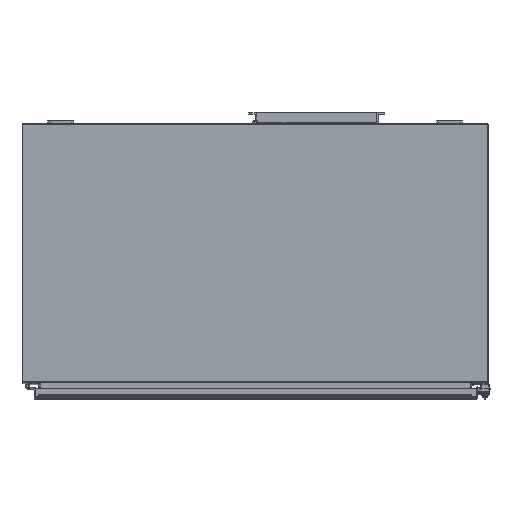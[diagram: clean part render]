
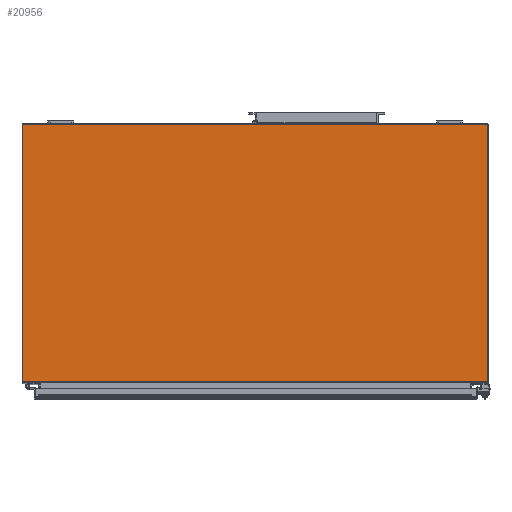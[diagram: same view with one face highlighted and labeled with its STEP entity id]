
A CAD part, top view. The second image highlights one B-rep face of the part: STEP entity #20956.
In plain terms, the highlighted planar face has unit normal (0, 0, 1) as drawn and (0, -1, 0) by its records, which use the part's own axes.
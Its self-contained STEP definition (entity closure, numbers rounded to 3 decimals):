
#2415=LINE('',#36921,#4421);
#2417=LINE('',#36925,#4423);
#2421=LINE('',#36934,#4427);
#2424=LINE('',#36939,#4430);
#4421=VECTOR('',#27189,1000.);
#4423=VECTOR('',#27195,1000.);
#4427=VECTOR('',#27201,1000.);
#4430=VECTOR('',#27208,1000.);
#9868=ORIENTED_EDGE('',*,*,#13590,.T.);
#9869=ORIENTED_EDGE('',*,*,#13581,.T.);
#9870=ORIENTED_EDGE('',*,*,#13587,.T.);
#9871=ORIENTED_EDGE('',*,*,#13583,.T.);
#13581=EDGE_CURVE('',#15775,#15778,#2415,.T.);
#13583=EDGE_CURVE('',#15779,#15780,#2417,.T.);
#13587=EDGE_CURVE('',#15778,#15779,#2421,.T.);
#13590=EDGE_CURVE('',#15780,#15775,#2424,.T.);
#15775=VERTEX_POINT('',#36855);
#15778=VERTEX_POINT('',#36914);
#15779=VERTEX_POINT('',#36926);
#15780=VERTEX_POINT('',#36927);
#17816=EDGE_LOOP('',(#9868,#9869,#9870,#9871));
#19064=FACE_BOUND('',#17816,.T.);
#19912=PLANE('',#22673);
#20956=ADVANCED_FACE('',(#19064),#19912,.T.);
#22673=AXIS2_PLACEMENT_3D('',#36940,#27209,#27210);
#27189=DIRECTION('',(-1.,0.,0.));
#27195=DIRECTION('',(1.,0.,0.));
#27201=DIRECTION('',(0.,0.,-1.));
#27208=DIRECTION('',(0.,0.,1.));
#27209=DIRECTION('',(0.,-1.,0.));
#27210=DIRECTION('',(0.,0.,-1.));
#36855=CARTESIAN_POINT('',(455.371,0.,251.257));
#36914=CARTESIAN_POINT('',(-455.371,0.,251.257));
#36921=CARTESIAN_POINT('',(455.371,0.,251.257));
#36925=CARTESIAN_POINT('',(-455.371,0.,-252.171));
#36926=CARTESIAN_POINT('',(-455.371,0.,-252.171));
#36927=CARTESIAN_POINT('',(455.371,0.,-252.171));
#36934=CARTESIAN_POINT('',(-455.371,0.,252.171));
#36939=CARTESIAN_POINT('',(455.371,0.,-252.171));
#36940=CARTESIAN_POINT('',(-455.371,0.,-252.171));
